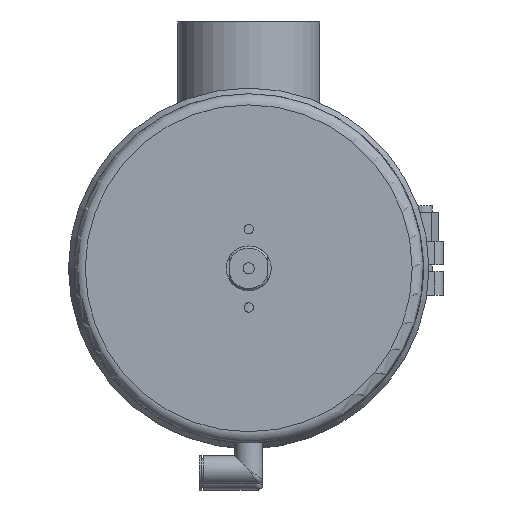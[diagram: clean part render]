
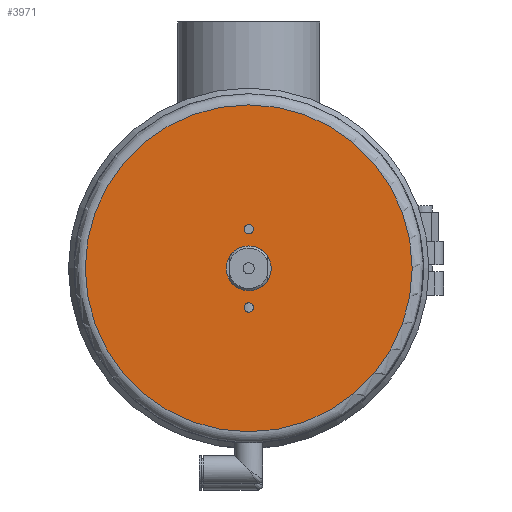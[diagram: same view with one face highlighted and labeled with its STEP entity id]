
A CAD part, front view. The second image highlights one B-rep face of the part: STEP entity #3971.
In plain terms, the highlighted planar face has unit normal (0, -1, 0) as drawn and (0, 1, 0) by its records, which use the part's own axes.
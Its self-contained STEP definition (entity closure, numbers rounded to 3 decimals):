
#168 = ORIENTED_EDGE ( 'NONE', *, *, #17050, .T. ) ;
#419 = AXIS2_PLACEMENT_3D ( 'NONE', #8182, #13436, #5737 ) ;
#685 = FACE_BOUND ( 'NONE', #21731, .T. ) ;
#1542 = CIRCLE ( 'NONE', #21844, 2.1 ) ;
#1683 = DIRECTION ( 'NONE',  ( 0., 1., 0. ) ) ;
#2284 = DIRECTION ( 'NONE',  ( 0., 0., -1. ) ) ;
#2532 = PLANE ( 'NONE',  #15460 ) ;
#2680 = VERTEX_POINT ( 'NONE', #21950 ) ;
#2873 = CIRCLE ( 'NONE', #3670, 73. ) ;
#3105 = ORIENTED_EDGE ( 'NONE', *, *, #15224, .F. ) ;
#3406 = DIRECTION ( 'NONE',  ( 0., 0., 1. ) ) ;
#3507 = ORIENTED_EDGE ( 'NONE', *, *, #20174, .F. ) ;
#3670 = AXIS2_PLACEMENT_3D ( 'NONE', #24453, #7383, #14976 ) ;
#3901 = FACE_BOUND ( 'NONE', #9024, .T. ) ;
#3971 = ADVANCED_FACE ( 'NONE', ( #3901, #15087, #20804, #685 ), #2532, .F. ) ;
#5117 = EDGE_LOOP ( 'NONE', ( #3105 ) ) ;
#5737 = DIRECTION ( 'NONE',  ( 0., 0., -1. ) ) ;
#7383 = DIRECTION ( 'NONE',  ( 0., 1., 0. ) ) ;
#7749 = ORIENTED_EDGE ( 'NONE', *, *, #8961, .T. ) ;
#8182 = CARTESIAN_POINT ( 'NONE',  ( 0., 263., 0. ) ) ;
#8961 = EDGE_CURVE ( 'NONE', #2680, #2680, #2873, .T. ) ;
#9018 = CARTESIAN_POINT ( 'NONE',  ( 0., 263., 19.6 ) ) ;
#9024 = EDGE_LOOP ( 'NONE', ( #3507 ) ) ;
#9165 = DIRECTION ( 'NONE',  ( 0., 0., 1. ) ) ;
#9372 = VERTEX_POINT ( 'NONE', #9018 ) ;
#10903 = DIRECTION ( 'NONE',  ( 0., 1., 0. ) ) ;
#11107 = CIRCLE ( 'NONE', #419, 10. ) ;
#13436 = DIRECTION ( 'NONE',  ( 0., -1., 0. ) ) ;
#14845 = AXIS2_PLACEMENT_3D ( 'NONE', #20434, #1683, #3406 ) ;
#14976 = DIRECTION ( 'NONE',  ( 0., 0., -1. ) ) ;
#15087 = FACE_BOUND ( 'NONE', #5117, .T. ) ;
#15224 = EDGE_CURVE ( 'NONE', #9372, #9372, #1542, .T. ) ;
#15460 = AXIS2_PLACEMENT_3D ( 'NONE', #17676, #15694, #2284 ) ;
#15694 = DIRECTION ( 'NONE',  ( 0., -1., 0. ) ) ;
#16444 = CIRCLE ( 'NONE', #14845, 2.1 ) ;
#16723 = EDGE_LOOP ( 'NONE', ( #7749 ) ) ;
#16834 = VERTEX_POINT ( 'NONE', #22069 ) ;
#17050 = EDGE_CURVE ( 'NONE', #24192, #24192, #11107, .T. ) ;
#17676 = CARTESIAN_POINT ( 'NONE',  ( -78., 263., 0. ) ) ;
#20174 = EDGE_CURVE ( 'NONE', #16834, #16834, #16444, .T. ) ;
#20196 = CARTESIAN_POINT ( 'NONE',  ( 0., 263., -10. ) ) ;
#20434 = CARTESIAN_POINT ( 'NONE',  ( 0., 263., -17.5 ) ) ;
#20804 = FACE_OUTER_BOUND ( 'NONE', #16723, .T. ) ;
#21731 = EDGE_LOOP ( 'NONE', ( #168 ) ) ;
#21844 = AXIS2_PLACEMENT_3D ( 'NONE', #22336, #10903, #9165 ) ;
#21950 = CARTESIAN_POINT ( 'NONE',  ( 0., 263., -73. ) ) ;
#22069 = CARTESIAN_POINT ( 'NONE',  ( 0., 263., -15.4 ) ) ;
#22336 = CARTESIAN_POINT ( 'NONE',  ( 0., 263., 17.5 ) ) ;
#24192 = VERTEX_POINT ( 'NONE', #20196 ) ;
#24453 = CARTESIAN_POINT ( 'NONE',  ( 0., 263., 0. ) ) ;
